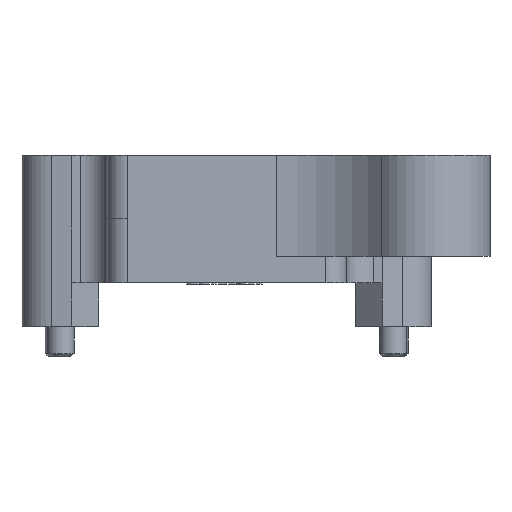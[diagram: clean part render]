
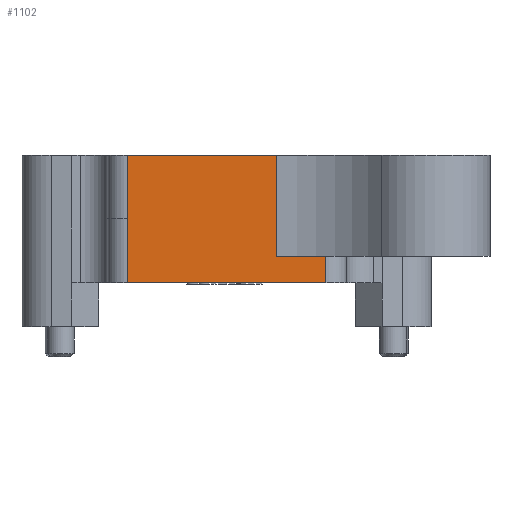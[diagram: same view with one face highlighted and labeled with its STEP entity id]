
A CAD part, front view. The second image highlights one B-rep face of the part: STEP entity #1102.
In plain terms, the highlighted planar face has unit normal (0, -1, 0).
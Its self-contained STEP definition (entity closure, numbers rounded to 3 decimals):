
#356=CARTESIAN_POINT('Vertex',(7.39,-18.16,-4.955)) ;
#359=CARTESIAN_POINT('Line Origine',(11.045,-18.16,-4.955)) ;
#363=CARTESIAN_POINT('Vertex',(14.7,-18.16,-4.955)) ;
#1040=CARTESIAN_POINT('Vertex',(7.39,-18.16,10.045)) ;
#1043=CARTESIAN_POINT('Line Origine',(7.39,-18.16,-2.155)) ;
#1055=CARTESIAN_POINT('Axis2P3D Location',(17.7,-18.16,0.645)) ;
#1060=CARTESIAN_POINT('Line Origine',(-3.655,-18.16,10.045)) ;
#1064=CARTESIAN_POINT('Vertex',(-14.7,-18.16,10.045)) ;
#1067=CARTESIAN_POINT('Line Origine',(-14.7,-18.16,5.345)) ;
#1071=CARTESIAN_POINT('Vertex',(-14.7,-18.16,0.645)) ;
#1074=CARTESIAN_POINT('Line Origine',(-14.7,-18.16,-4.105)) ;
#1078=CARTESIAN_POINT('Vertex',(-14.7,-18.16,-8.855)) ;
#1081=CARTESIAN_POINT('Line Origine',(0.,-18.16,-8.855)) ;
#1085=CARTESIAN_POINT('Vertex',(14.7,-18.16,-8.855)) ;
#1088=CARTESIAN_POINT('Line Origine',(14.7,-18.16,-6.905)) ;
#360=DIRECTION('Vector Direction',(-1.,0.,0.)) ;
#1044=DIRECTION('Vector Direction',(0.,0.,-1.)) ;
#1056=DIRECTION('Axis2P3D Direction',(0.,-1.,-0.)) ;
#1057=DIRECTION('Axis2P3D XDirection',(-1.,0.,-0.)) ;
#1061=DIRECTION('Vector Direction',(-1.,0.,0.)) ;
#1068=DIRECTION('Vector Direction',(0.,0.,1.)) ;
#1075=DIRECTION('Vector Direction',(0.,0.,-1.)) ;
#1082=DIRECTION('Vector Direction',(-1.,0.,0.)) ;
#1089=DIRECTION('Vector Direction',(0.,0.,-1.)) ;
#1058=AXIS2_PLACEMENT_3D('Plane Axis2P3D',#1055,#1056,#1057) ;
#1094=ORIENTED_EDGE('',*,*,#1047,.T.) ;
#1095=ORIENTED_EDGE('',*,*,#1066,.T.) ;
#1096=ORIENTED_EDGE('',*,*,#1073,.F.) ;
#1097=ORIENTED_EDGE('',*,*,#1080,.T.) ;
#1098=ORIENTED_EDGE('',*,*,#1087,.T.) ;
#1099=ORIENTED_EDGE('',*,*,#1092,.F.) ;
#1100=ORIENTED_EDGE('',*,*,#365,.F.) ;
#361=VECTOR('Line Direction',#360,1.) ;
#1045=VECTOR('Line Direction',#1044,1.) ;
#1062=VECTOR('Line Direction',#1061,1.) ;
#1069=VECTOR('Line Direction',#1068,1.) ;
#1076=VECTOR('Line Direction',#1075,1.) ;
#1083=VECTOR('Line Direction',#1082,1.) ;
#1090=VECTOR('Line Direction',#1089,1.) ;
#1102=ADVANCED_FACE('\X2\96F64EF651E04F554F53\X0\',(#1101),#1059,.T.) ;
#365=EDGE_CURVE('',#357,#364,#362,.F.) ;
#1047=EDGE_CURVE('',#357,#1041,#1046,.F.) ;
#1066=EDGE_CURVE('',#1041,#1065,#1063,.T.) ;
#1073=EDGE_CURVE('',#1072,#1065,#1070,.T.) ;
#1080=EDGE_CURVE('',#1072,#1079,#1077,.T.) ;
#1087=EDGE_CURVE('',#1079,#1086,#1084,.F.) ;
#1092=EDGE_CURVE('',#364,#1086,#1091,.T.) ;
#1093=EDGE_LOOP('',(#1094,#1095,#1096,#1097,#1098,#1099,#1100)) ;
#1101=FACE_OUTER_BOUND('',#1093,.T.) ;
#362=LINE('Line',#359,#361) ;
#1046=LINE('Line',#1043,#1045) ;
#1063=LINE('Line',#1060,#1062) ;
#1070=LINE('Line',#1067,#1069) ;
#1077=LINE('Line',#1074,#1076) ;
#1084=LINE('Line',#1081,#1083) ;
#1091=LINE('Line',#1088,#1090) ;
#1059=PLANE('',#1058) ;
#357=VERTEX_POINT('',#356) ;
#364=VERTEX_POINT('',#363) ;
#1041=VERTEX_POINT('',#1040) ;
#1065=VERTEX_POINT('',#1064) ;
#1072=VERTEX_POINT('',#1071) ;
#1079=VERTEX_POINT('',#1078) ;
#1086=VERTEX_POINT('',#1085) ;
